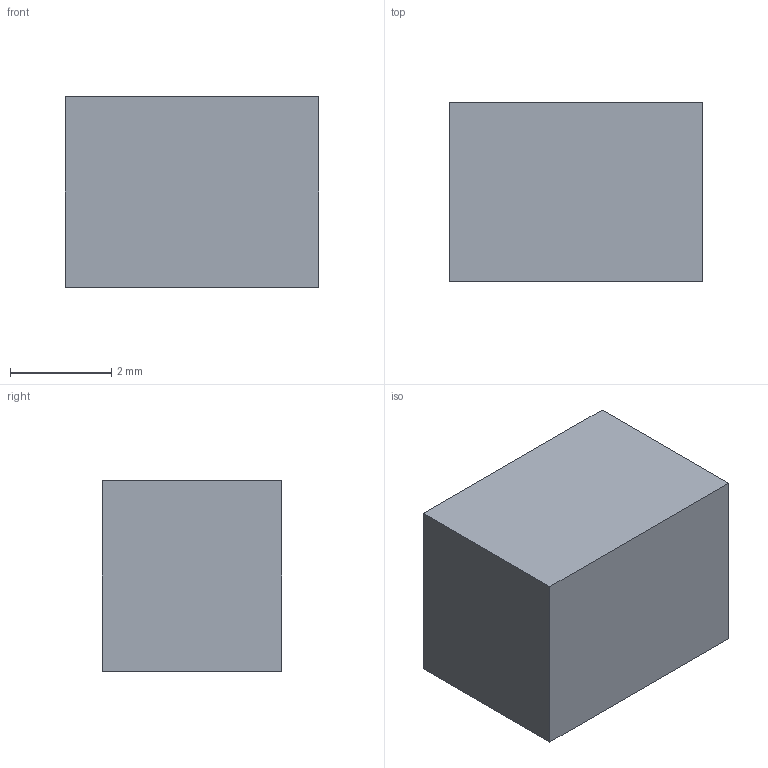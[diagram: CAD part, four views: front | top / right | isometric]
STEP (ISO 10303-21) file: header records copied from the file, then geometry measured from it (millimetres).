
FILE_DESCRIPTION(/* description */ ('STEP AP242 Edition 2','CAx-IF Rec.Pracs.---Representation and Presentation of Product Manufacturing Information (PMI)---4.0---2014-10-13','CAx-IF Rec.Pracs.---3D Tessellated Geometry---0.4---2014-09-14','2;1','CAx-IF Rec.Pracs.---User Defined Attributes---1.5---2016-08-15'),/* implementation_level */ '2;1');
FILE_NAME(/* name */ 'LCD_TFT_1.8_SPI_ST7735 - Part 8',/* time_stamp */ '2026-04-28T02:34:33Z',/* author */ (''),/* organization */ (''),/* preprocessor_version */ 'ST-DEVELOPER v20',/* originating_system */ 'ONSHAPE BY PTC INC, 1.214',/* authorisation */ ' ');
FILE_SCHEMA (('AP242_MANAGED_MODEL_BASED_3D_ENGINEERING_MIM_LF { 1 0 10303 442 3 1 4 }'));
Length unit declared in the file: metre
Products named in the file (1): Part 8
Bounding box: 5 x 3.54 x 3.76 mm (x, y, z)
Volume: 66.6 mm3; surface area: 99.7 mm2
Topology: 1 solids, 1 shells, 6 faces, 12 edges, 8 vertices
Faces by surface type: plane 6
Entity records: 178 total; most frequent: CARTESIAN_POINT 27, DIRECTION 26, ORIENTED_EDGE 24, EDGE_CURVE 12, LINE 12, VECTOR 12, VERTEX_POINT 8, AXIS2_PLACEMENT_3D 7
